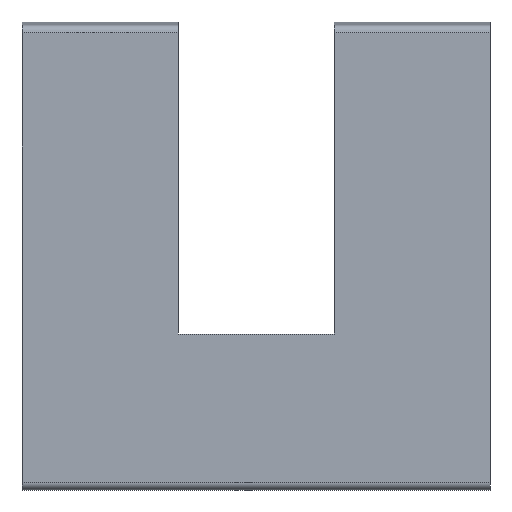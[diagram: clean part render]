
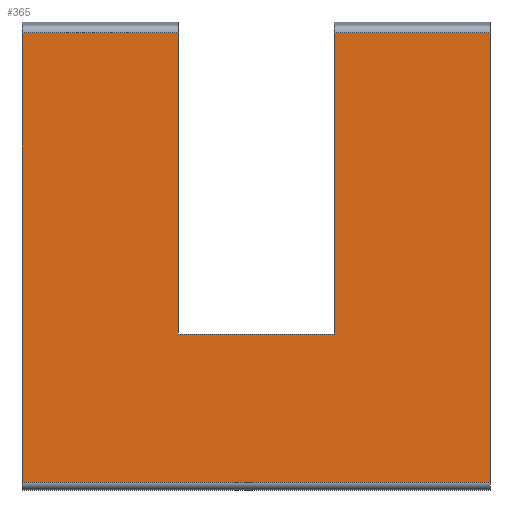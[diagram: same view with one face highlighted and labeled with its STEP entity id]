
A CAD part, front view. The second image highlights one B-rep face of the part: STEP entity #365.
In plain terms, the highlighted planar face has unit normal (0, -1, 0).
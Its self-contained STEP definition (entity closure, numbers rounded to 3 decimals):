
#181 = EDGE_CURVE( '', #385, #271, #473, .T. );
#193 = EDGE_CURVE( '', #285, #331, #485, .T. );
#209 = VERTEX_POINT( '', #502 );
#213 = VERTEX_POINT( '', #506 );
#249 = EDGE_CURVE( '', #285, #351, #547, .T. );
#269 = EDGE_CURVE( '', #209, #271, #567, .T. );
#271 = VERTEX_POINT( '', #569 );
#285 = VERTEX_POINT( '', #585 );
#299 = EDGE_CURVE( '', #389, #351, #599, .T. );
#319 = EDGE_CURVE( '', #385, #213, #621, .T. );
#331 = VERTEX_POINT( '', #634 );
#349 = EDGE_CURVE( '', #331, #209, #657, .T. );
#351 = VERTEX_POINT( '', #659 );
#365 = ADVANCED_FACE( '', ( #676 ), #677, .T. );
#385 = VERTEX_POINT( '', #697 );
#389 = VERTEX_POINT( '', #701 );
#407 = EDGE_CURVE( '', #213, #389, #722, .T. );
#473 = LINE( '', #789, #790 );
#485 = LINE( '', #810, #811 );
#502 = CARTESIAN_POINT( '', ( 6., -24., -30. ) );
#506 = CARTESIAN_POINT( '', ( -14., -24., -49. ) );
#547 = LINE( '', #896, #897 );
#567 = LINE( '', #923, #924 );
#569 = CARTESIAN_POINT( '', ( 6., -24., 8.598 ) );
#585 = CARTESIAN_POINT( '', ( 26., -24., 8.598 ) );
#599 = LINE( '', #971, #972 );
#621 = LINE( '', #1002, #1003 );
#634 = CARTESIAN_POINT( '', ( 26., -24., -30. ) );
#657 = LINE( '', #1046, #1047 );
#659 = CARTESIAN_POINT( '', ( 46., -24., 8.598 ) );
#676 = FACE_OUTER_BOUND( '', #1070, .T. );
#677 = PLANE( '', #1071 );
#697 = CARTESIAN_POINT( '', ( -14., -24., 8.598 ) );
#701 = CARTESIAN_POINT( '', ( 46., -24., -49. ) );
#722 = LINE( '', #1134, #1135 );
#789 = CARTESIAN_POINT( '', ( -14., -24., 8.598 ) );
#790 = VECTOR( '', #1199, 1. );
#810 = CARTESIAN_POINT( '', ( 26., -24., -17. ) );
#811 = VECTOR( '', #1206, 1. );
#896 = CARTESIAN_POINT( '', ( -14., -24., 8.598 ) );
#897 = VECTOR( '', #1272, 1. );
#923 = CARTESIAN_POINT( '', ( 6., -24., -39.5 ) );
#924 = VECTOR( '', #1278, 1. );
#971 = CARTESIAN_POINT( '', ( 46., -24., 8.598 ) );
#972 = VECTOR( '', #1301, 1. );
#1002 = CARTESIAN_POINT( '', ( -14., -24., 8.598 ) );
#1003 = VECTOR( '', #1330, 1. );
#1046 = CARTESIAN_POINT( '', ( 6., -24., -30. ) );
#1047 = VECTOR( '', #1389, 1. );
#1070 = EDGE_LOOP( '', ( #1421, #1422, #1423, #1424, #1425, #1426, #1427, #1428 ) );
#1071 = AXIS2_PLACEMENT_3D( '', #1429, #1430, #1431 );
#1134 = CARTESIAN_POINT( '', ( -14., -24., -49. ) );
#1135 = VECTOR( '', #1482, 1. );
#1199 = DIRECTION( '', ( 1., 0., 0. ) );
#1206 = DIRECTION( '', ( 0., 0., -1. ) );
#1272 = DIRECTION( '', ( 1., 0., 0. ) );
#1278 = DIRECTION( '', ( 0., 0., 1. ) );
#1301 = DIRECTION( '', ( 0., 0., 1. ) );
#1330 = DIRECTION( '', ( 0., 0., -1. ) );
#1389 = DIRECTION( '', ( -1., 0., 0. ) );
#1421 = ORIENTED_EDGE( '', *, *, #193, .T. );
#1422 = ORIENTED_EDGE( '', *, *, #349, .T. );
#1423 = ORIENTED_EDGE( '', *, *, #269, .T. );
#1424 = ORIENTED_EDGE( '', *, *, #181, .F. );
#1425 = ORIENTED_EDGE( '', *, *, #319, .T. );
#1426 = ORIENTED_EDGE( '', *, *, #407, .T. );
#1427 = ORIENTED_EDGE( '', *, *, #299, .T. );
#1428 = ORIENTED_EDGE( '', *, *, #249, .F. );
#1429 = CARTESIAN_POINT( '', ( -14., -24., -49. ) );
#1430 = DIRECTION( '', ( 0., -1., 0. ) );
#1431 = DIRECTION( '', ( 0., 0., -1. ) );
#1482 = DIRECTION( '', ( 1., 0., 0. ) );
